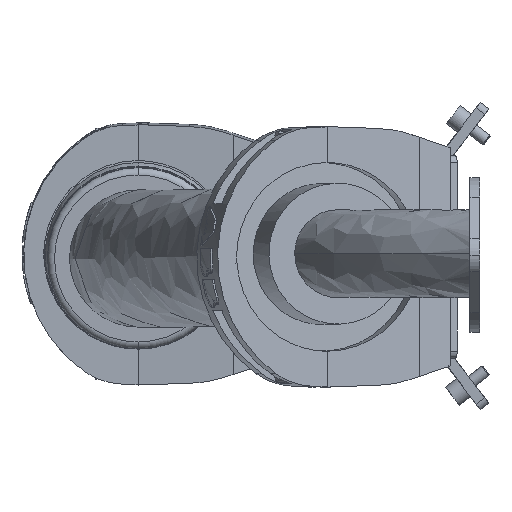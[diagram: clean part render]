
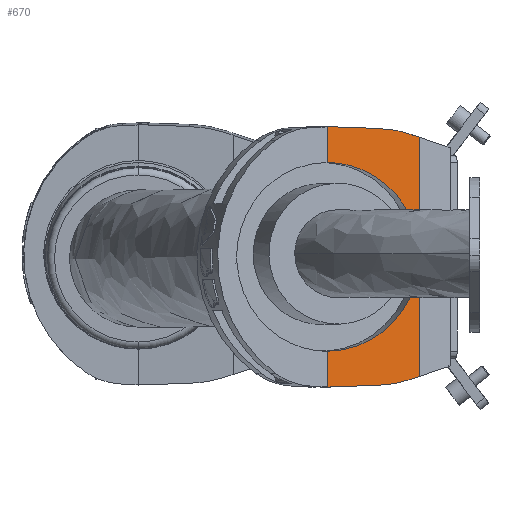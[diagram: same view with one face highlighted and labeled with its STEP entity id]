
A CAD part, left-side view. The second image highlights one B-rep face of the part: STEP entity #670.
In plain terms, the highlighted planar face has unit normal (-0.974, -0.225, 0).
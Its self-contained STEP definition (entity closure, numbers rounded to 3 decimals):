
#482 = LINE ( 'NONE', #11437, #20712 ) ;
#670 = ADVANCED_FACE ( 'NONE', ( #3072 ), #22503, .F. ) ;
#686 = VECTOR ( 'NONE', #20471, 1000. ) ;
#899 = VECTOR ( 'NONE', #4025, 1000. ) ;
#978 = CARTESIAN_POINT ( 'NONE',  ( 826.411, 133.307, 2235.44 ) ) ;
#1023 = CARTESIAN_POINT ( 'NONE',  ( 823.218, 147.137, 2236.952 ) ) ;
#1153 = CARTESIAN_POINT ( 'NONE',  ( 827.621, 128.064, 2233.659 ) ) ;
#1197 = VECTOR ( 'NONE', #3183, 1000. ) ;
#1419 = ORIENTED_EDGE ( 'NONE', *, *, #21907, .F. ) ;
#1673 = EDGE_CURVE ( 'NONE', #14097, #14822, #16642, .T. ) ;
#1788 = EDGE_CURVE ( 'NONE', #10560, #4920, #482, .T. ) ;
#1949 =( BOUNDED_CURVE ( )  B_SPLINE_CURVE ( 3, ( #8485, #10394, #23086, #16196 ),
 .UNSPECIFIED., .F., .F. ) 
 B_SPLINE_CURVE_WITH_KNOTS ( ( 4, 4 ),
 ( 1.251, 1.536 ),
 .UNSPECIFIED. ) 
 CURVE ( )  GEOMETRIC_REPRESENTATION_ITEM ( )  RATIONAL_B_SPLINE_CURVE ( ( 1., 0.993, 0.993, 1. ) ) 
 REPRESENTATION_ITEM ( '' )  );
#2143 = CARTESIAN_POINT ( 'NONE',  ( 828.79, 123., 2231.938 ) ) ;
#2358 = ORIENTED_EDGE ( 'NONE', *, *, #17733, .F. ) ;
#2515 = LINE ( 'NONE', #8261, #7736 ) ;
#3070 = EDGE_LOOP ( 'NONE', ( #16656, #1419, #17804, #7646, #16819, #2358, #6302, #15941, #5957, #6553, #4349 ) ) ;
#3072 = FACE_OUTER_BOUND ( 'NONE', #3070, .T. ) ;
#3183 = DIRECTION ( 'NONE',  ( 0., 0., 1. ) ) ;
#3285 = LINE ( 'NONE', #7384, #3735 ) ;
#3511 = VERTEX_POINT ( 'NONE', #17735 ) ;
#3735 = VECTOR ( 'NONE', #14322, 1000. ) ;
#4025 = DIRECTION ( 'NONE',  ( 0.225, -0.974, -0.035 ) ) ;
#4036 = CARTESIAN_POINT ( 'NONE',  ( 824.097, 143.329, 2110.374 ) ) ;
#4110 = DIRECTION ( 'NONE',  ( -0.214, 0.925, -0.314 ) ) ;
#4349 = ORIENTED_EDGE ( 'NONE', *, *, #8455, .F. ) ;
#4799 = CARTESIAN_POINT ( 'NONE',  ( 816.636, 175.648, 2110.374 ) ) ;
#4920 = VERTEX_POINT ( 'NONE', #17204 ) ;
#5755 = VERTEX_POINT ( 'NONE', #14358 ) ;
#5903 = VERTEX_POINT ( 'NONE', #16644 ) ;
#5957 = ORIENTED_EDGE ( 'NONE', *, *, #1673, .F. ) ;
#6244 = CARTESIAN_POINT ( 'NONE',  ( 822.872, 148.636, 2237.006 ) ) ;
#6292 = CARTESIAN_POINT ( 'NONE',  ( 823.218, 147.137, 2236.952 ) ) ;
#6302 = ORIENTED_EDGE ( 'NONE', *, *, #16849, .F. ) ;
#6553 = ORIENTED_EDGE ( 'NONE', *, *, #20425, .F. ) ;
#7161 = CARTESIAN_POINT ( 'NONE',  ( 827.621, 128.064, 2094.288 ) ) ;
#7318 = CARTESIAN_POINT ( 'NONE',  ( 827.939, 126.689, 2233.191 ) ) ;
#7384 = CARTESIAN_POINT ( 'NONE',  ( 828.79, 123., 2263.973 ) ) ;
#7525 = EDGE_CURVE ( 'NONE', #5755, #10560, #1949, .T. ) ;
#7646 = ORIENTED_EDGE ( 'NONE', *, *, #7525, .F. ) ;
#7736 = VECTOR ( 'NONE', #16912, 1000. ) ;
#7959 = CARTESIAN_POINT ( 'NONE',  ( 816.636, 175.648, 2237.973 ) ) ;
#8261 = CARTESIAN_POINT ( 'NONE',  ( 816.636, 175.648, 2237.973 ) ) ;
#8455 = EDGE_CURVE ( 'NONE', #10429, #5903, #21781, .T. ) ;
#8459 = LINE ( 'NONE', #17227, #1197 ) ;
#8485 = CARTESIAN_POINT ( 'NONE',  ( 827.939, 126.689, 2094.755 ) ) ;
#8540 = CARTESIAN_POINT ( 'NONE',  ( 828.671, 123.516, 2167.682 ) ) ;
#9886 = DIRECTION ( 'NONE',  ( -0.225, 0.974, -0.035 ) ) ;
#9976 = CARTESIAN_POINT ( 'NONE',  ( 829.188, 121.28, 2134.611 ) ) ;
#10394 = CARTESIAN_POINT ( 'NONE',  ( 826.411, 133.307, 2092.506 ) ) ;
#10429 = VERTEX_POINT ( 'NONE', #12473 ) ;
#10560 = VERTEX_POINT ( 'NONE', #22119 ) ;
#11437 = CARTESIAN_POINT ( 'NONE',  ( 816.298, 177.113, 2089.921 ) ) ;
#12148 = CARTESIAN_POINT ( 'NONE',  ( 815.587, 180.19, 2263.973 ) ) ;
#12213 = CARTESIAN_POINT ( 'NONE',  ( 823.321, 146.691, 2217.573 ) ) ;
#12473 = CARTESIAN_POINT ( 'NONE',  ( 828.671, 123.516, 2167.682 ) ) ;
#12670 = CARTESIAN_POINT ( 'NONE',  ( 828.79, 123., 2096.009 ) ) ;
#13391 = AXIS2_PLACEMENT_3D ( 'NONE', #12148, #13759, #20843 ) ;
#13759 = DIRECTION ( 'NONE',  ( 0.974, 0.225, 0. ) ) ;
#13900 = EDGE_CURVE ( 'NONE', #17027, #5755, #16262, .T. ) ;
#14097 = VERTEX_POINT ( 'NONE', #7959 ) ;
#14322 = DIRECTION ( 'NONE',  ( 0., 0., -1. ) ) ;
#14358 = CARTESIAN_POINT ( 'NONE',  ( 827.939, 126.689, 2094.755 ) ) ;
#14699 =( BOUNDED_CURVE ( )  B_SPLINE_CURVE ( 3, ( #4799, #4036, #9976, #17074 ),
 .UNSPECIFIED., .F., .F. ) 
 B_SPLINE_CURVE_WITH_KNOTS ( ( 4, 4 ),
 ( 1.571, 3.211 ),
 .UNSPECIFIED. ) 
 CURVE ( )  GEOMETRIC_REPRESENTATION_ITEM ( )  RATIONAL_B_SPLINE_CURVE ( ( 1., 0.788, 0.788, 1. ) ) 
 REPRESENTATION_ITEM ( '' )  );
#14822 = VERTEX_POINT ( 'NONE', #1023 ) ;
#15144 = LINE ( 'NONE', #1153, #686 ) ;
#15941 = ORIENTED_EDGE ( 'NONE', *, *, #21348, .F. ) ;
#16196 = CARTESIAN_POINT ( 'NONE',  ( 823.218, 147.137, 2090.995 ) ) ;
#16262 = LINE ( 'NONE', #7161, #17677 ) ;
#16642 = LINE ( 'NONE', #6244, #899 ) ;
#16644 = CARTESIAN_POINT ( 'NONE',  ( 816.636, 175.648, 2217.573 ) ) ;
#16656 = ORIENTED_EDGE ( 'NONE', *, *, #23102, .F. ) ;
#16819 = ORIENTED_EDGE ( 'NONE', *, *, #13900, .F. ) ;
#16849 = EDGE_CURVE ( 'NONE', #22997, #23024, #15144, .T. ) ;
#16912 = DIRECTION ( 'NONE',  ( 0., 0., 1. ) ) ;
#17027 = VERTEX_POINT ( 'NONE', #12670 ) ;
#17074 = CARTESIAN_POINT ( 'NONE',  ( 828.671, 123.516, 2167.682 ) ) ;
#17185 =( BOUNDED_CURVE ( )  B_SPLINE_CURVE ( 3, ( #6292, #22745, #978, #18781 ),
 .UNSPECIFIED., .F., .T. ) 
 B_SPLINE_CURVE_WITH_KNOTS ( ( 4, 4 ),
 ( 4.747, 5.032 ),
 .UNSPECIFIED. ) 
 CURVE ( )  GEOMETRIC_REPRESENTATION_ITEM ( )  RATIONAL_B_SPLINE_CURVE ( ( 1., 0.993, 0.993, 1. ) ) 
 REPRESENTATION_ITEM ( '' )  );
#17204 = CARTESIAN_POINT ( 'NONE',  ( 816.636, 175.648, 2089.973 ) ) ;
#17227 = CARTESIAN_POINT ( 'NONE',  ( 816.636, 175.648, 2237.973 ) ) ;
#17677 = VECTOR ( 'NONE', #4110, 1000. ) ;
#17733 = EDGE_CURVE ( 'NONE', #23024, #17027, #3285, .T. ) ;
#17735 = CARTESIAN_POINT ( 'NONE',  ( 816.636, 175.648, 2110.374 ) ) ;
#17804 = ORIENTED_EDGE ( 'NONE', *, *, #1788, .F. ) ;
#18781 = CARTESIAN_POINT ( 'NONE',  ( 827.939, 126.689, 2233.191 ) ) ;
#20425 = EDGE_CURVE ( 'NONE', #5903, #14097, #8459, .T. ) ;
#20471 = DIRECTION ( 'NONE',  ( 0.214, -0.925, -0.314 ) ) ;
#20712 = VECTOR ( 'NONE', #9886, 1000. ) ;
#20798 = CARTESIAN_POINT ( 'NONE',  ( 828.209, 125.519, 2197.311 ) ) ;
#20843 = DIRECTION ( 'NONE',  ( 0.225, -0.974, 0. ) ) ;
#21348 = EDGE_CURVE ( 'NONE', #14822, #22997, #17185, .T. ) ;
#21781 =( BOUNDED_CURVE ( )  B_SPLINE_CURVE ( 3, ( #8540, #20798, #12213, #22569 ),
 .UNSPECIFIED., .F., .F. ) 
 B_SPLINE_CURVE_WITH_KNOTS ( ( 4, 4 ),
 ( 3.211, 4.712 ),
 .UNSPECIFIED. ) 
 CURVE ( )  GEOMETRIC_REPRESENTATION_ITEM ( )  RATIONAL_B_SPLINE_CURVE ( ( 1., 0.821, 0.821, 1. ) ) 
 REPRESENTATION_ITEM ( '' )  );
#21907 = EDGE_CURVE ( 'NONE', #4920, #3511, #2515, .T. ) ;
#22119 = CARTESIAN_POINT ( 'NONE',  ( 823.218, 147.137, 2090.995 ) ) ;
#22503 = PLANE ( 'NONE',  #13391 ) ;
#22569 = CARTESIAN_POINT ( 'NONE',  ( 816.636, 175.648, 2217.573 ) ) ;
#22745 = CARTESIAN_POINT ( 'NONE',  ( 824.827, 140.169, 2236.703 ) ) ;
#22997 = VERTEX_POINT ( 'NONE', #7318 ) ;
#23024 = VERTEX_POINT ( 'NONE', #2143 ) ;
#23086 = CARTESIAN_POINT ( 'NONE',  ( 824.827, 140.169, 2091.244 ) ) ;
#23102 = EDGE_CURVE ( 'NONE', #3511, #10429, #14699, .T. ) ;
